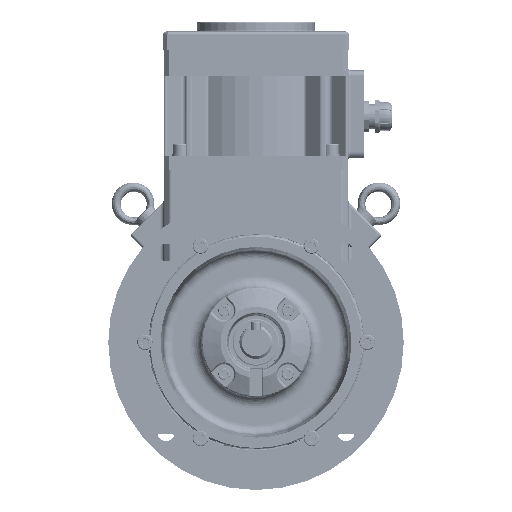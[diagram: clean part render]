
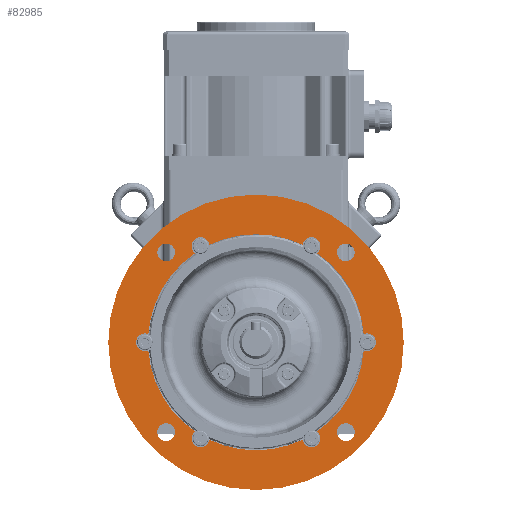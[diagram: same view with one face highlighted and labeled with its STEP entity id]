
A CAD part, front view. The second image highlights one B-rep face of the part: STEP entity #82985.
In plain terms, the highlighted planar face has unit normal (0, -1, 0).
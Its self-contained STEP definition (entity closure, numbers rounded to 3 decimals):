
#1351=PLANE('',#87097);
#2729=CIRCLE('',#87042,7.5);
#2734=CIRCLE('',#87050,7.5);
#2738=CIRCLE('',#87057,7.5);
#2743=CIRCLE('',#87065,7.5);
#2748=CIRCLE('',#87073,7.5);
#2754=CIRCLE('',#87082,7.5);
#2764=CIRCLE('',#87096,91.4);
#2765=CIRCLE('',#87098,91.4);
#2766=CIRCLE('',#87099,91.4);
#2767=CIRCLE('',#87100,91.4);
#2768=CIRCLE('',#87101,91.4);
#2769=CIRCLE('',#87102,91.4);
#2770=CIRCLE('',#87103,7.5);
#2771=CIRCLE('',#87104,7.5);
#2772=CIRCLE('',#87105,7.5);
#2773=CIRCLE('',#87106,7.5);
#2774=CIRCLE('',#87107,125.);
#7872=ORIENTED_EDGE('',*,*,#26857,.F.);
#7873=ORIENTED_EDGE('',*,*,#26843,.T.);
#7874=ORIENTED_EDGE('',*,*,#26856,.F.);
#7875=ORIENTED_EDGE('',*,*,#26789,.F.);
#7876=ORIENTED_EDGE('',*,*,#26858,.F.);
#7877=ORIENTED_EDGE('',*,*,#26799,.T.);
#7878=ORIENTED_EDGE('',*,*,#26859,.F.);
#7879=ORIENTED_EDGE('',*,*,#26808,.T.);
#7880=ORIENTED_EDGE('',*,*,#26860,.F.);
#7881=ORIENTED_EDGE('',*,*,#26820,.F.);
#7882=ORIENTED_EDGE('',*,*,#26861,.F.);
#7883=ORIENTED_EDGE('',*,*,#26831,.F.);
#7884=ORIENTED_EDGE('',*,*,#26862,.F.);
#7885=ORIENTED_EDGE('',*,*,#26863,.F.);
#7886=ORIENTED_EDGE('',*,*,#26864,.F.);
#7887=ORIENTED_EDGE('',*,*,#26865,.F.);
#7888=ORIENTED_EDGE('',*,*,#26866,.F.);
#26789=EDGE_CURVE('',#36306,#36307,#2729,.F.);
#26799=EDGE_CURVE('',#36317,#36316,#2734,.T.);
#26808=EDGE_CURVE('',#36326,#36325,#2738,.T.);
#26820=EDGE_CURVE('',#36337,#36338,#2743,.F.);
#26831=EDGE_CURVE('',#36348,#36349,#2748,.F.);
#26843=EDGE_CURVE('',#36361,#36360,#2754,.T.);
#26856=EDGE_CURVE('',#36307,#36360,#2764,.T.);
#26857=EDGE_CURVE('',#36361,#36348,#2765,.T.);
#26858=EDGE_CURVE('',#36317,#36306,#2766,.T.);
#26859=EDGE_CURVE('',#36326,#36316,#2767,.T.);
#26860=EDGE_CURVE('',#36338,#36325,#2768,.T.);
#26861=EDGE_CURVE('',#36349,#36337,#2769,.T.);
#26862=EDGE_CURVE('',#36365,#36365,#2770,.T.);
#26863=EDGE_CURVE('',#36366,#36366,#2771,.T.);
#26864=EDGE_CURVE('',#36367,#36367,#2772,.T.);
#26865=EDGE_CURVE('',#36368,#36368,#2773,.T.);
#26866=EDGE_CURVE('',#36369,#36369,#2774,.T.);
#36306=VERTEX_POINT('',#115081);
#36307=VERTEX_POINT('',#115083);
#36316=VERTEX_POINT('',#115119);
#36317=VERTEX_POINT('',#115121);
#36325=VERTEX_POINT('',#115155);
#36326=VERTEX_POINT('',#115157);
#36337=VERTEX_POINT('',#115203);
#36338=VERTEX_POINT('',#115205);
#36348=VERTEX_POINT('',#115246);
#36349=VERTEX_POINT('',#115248);
#36360=VERTEX_POINT('',#115291);
#36361=VERTEX_POINT('',#115293);
#36365=VERTEX_POINT('',#115330);
#36366=VERTEX_POINT('',#115332);
#36367=VERTEX_POINT('',#115334);
#36368=VERTEX_POINT('',#115336);
#36369=VERTEX_POINT('',#115338);
#51395=EDGE_LOOP('',(#7872,#7873,#7874,#7875,#7876,#7877,#7878,#7879,#7880,
#7881,#7882,#7883));
#51396=EDGE_LOOP('',(#7884));
#51397=EDGE_LOOP('',(#7885));
#51398=EDGE_LOOP('',(#7886));
#51399=EDGE_LOOP('',(#7887));
#51400=EDGE_LOOP('',(#7888));
#56313=FACE_BOUND('',#51395,.T.);
#56314=FACE_BOUND('',#51396,.T.);
#56315=FACE_BOUND('',#51397,.T.);
#56316=FACE_BOUND('',#51398,.T.);
#56317=FACE_BOUND('',#51399,.T.);
#56318=FACE_BOUND('',#51400,.T.);
#82985=ADVANCED_FACE('',(#56313,#56314,#56315,#56316,#56317,#56318),#1351,
 .F.);
#87042=AXIS2_PLACEMENT_3D('',#115082,#94957,#94958);
#87050=AXIS2_PLACEMENT_3D('',#115120,#94975,#94976);
#87057=AXIS2_PLACEMENT_3D('',#115156,#94991,#94992);
#87065=AXIS2_PLACEMENT_3D('',#115204,#95009,#95010);
#87073=AXIS2_PLACEMENT_3D('',#115247,#95027,#95028);
#87082=AXIS2_PLACEMENT_3D('',#115292,#95047,#95048);
#87096=AXIS2_PLACEMENT_3D('',#115322,#95076,#95077);
#87097=AXIS2_PLACEMENT_3D('',#115323,#95078,#95079);
#87098=AXIS2_PLACEMENT_3D('',#115324,#95080,#95081);
#87099=AXIS2_PLACEMENT_3D('',#115325,#95082,#95083);
#87100=AXIS2_PLACEMENT_3D('',#115326,#95084,#95085);
#87101=AXIS2_PLACEMENT_3D('',#115327,#95086,#95087);
#87102=AXIS2_PLACEMENT_3D('',#115328,#95088,#95089);
#87103=AXIS2_PLACEMENT_3D('',#115329,#95090,#95091);
#87104=AXIS2_PLACEMENT_3D('',#115331,#95092,#95093);
#87105=AXIS2_PLACEMENT_3D('',#115333,#95094,#95095);
#87106=AXIS2_PLACEMENT_3D('',#115335,#95096,#95097);
#87107=AXIS2_PLACEMENT_3D('',#115337,#95098,#95099);
#94957=DIRECTION('',(0.,1.,0.));
#94958=DIRECTION('',(0.,0.,-1.));
#94975=DIRECTION('',(0.,1.,0.));
#94976=DIRECTION('',(0.,0.,-1.));
#94991=DIRECTION('',(0.,1.,0.));
#94992=DIRECTION('',(0.,0.,-1.));
#95009=DIRECTION('',(0.,1.,0.));
#95010=DIRECTION('',(0.,0.,-1.));
#95027=DIRECTION('',(0.,1.,0.));
#95028=DIRECTION('',(0.,0.,-1.));
#95047=DIRECTION('',(0.,1.,0.));
#95048=DIRECTION('',(0.,0.,-1.));
#95076=DIRECTION('',(0.,-1.,0.));
#95077=DIRECTION('',(0.,0.,1.));
#95078=DIRECTION('',(0.,1.,0.));
#95079=DIRECTION('',(0.,0.,-1.));
#95080=DIRECTION('',(0.,-1.,0.));
#95081=DIRECTION('',(0.,0.,1.));
#95082=DIRECTION('',(0.,-1.,0.));
#95083=DIRECTION('',(0.,0.,1.));
#95084=DIRECTION('',(0.,-1.,0.));
#95085=DIRECTION('',(0.,0.,1.));
#95086=DIRECTION('',(0.,-1.,0.));
#95087=DIRECTION('',(0.,0.,1.));
#95088=DIRECTION('',(0.,-1.,0.));
#95089=DIRECTION('',(0.,0.,1.));
#95090=DIRECTION('',(0.,-1.,0.));
#95091=DIRECTION('',(1.,0.,0.));
#95092=DIRECTION('',(0.,-1.,0.));
#95093=DIRECTION('',(1.,0.,0.));
#95094=DIRECTION('',(0.,-1.,0.));
#95095=DIRECTION('',(1.,0.,0.));
#95096=DIRECTION('',(0.,-1.,0.));
#95097=DIRECTION('',(1.,0.,0.));
#95098=DIRECTION('',(0.,1.,0.));
#95099=DIRECTION('',(0.,0.,-1.));
#115081=CARTESIAN_POINT('',(-51.572,-37.497,-75.461));
#115082=CARTESIAN_POINT('',(-47.,-37.497,-81.406));
#115083=CARTESIAN_POINT('',(-39.565,-37.497,-82.393));
#115119=CARTESIAN_POINT('',(-91.137,-37.497,6.932));
#115120=CARTESIAN_POINT('',(-94.,-37.497,0.));
#115121=CARTESIAN_POINT('',(-91.137,-37.497,-6.932));
#115155=CARTESIAN_POINT('',(-39.565,-37.497,82.393));
#115156=CARTESIAN_POINT('',(-47.,-37.497,81.406));
#115157=CARTESIAN_POINT('',(-51.572,-37.497,75.461));
#115203=CARTESIAN_POINT('',(51.572,-37.497,75.461));
#115204=CARTESIAN_POINT('',(47.,-37.497,81.406));
#115205=CARTESIAN_POINT('',(39.565,-37.497,82.393));
#115246=CARTESIAN_POINT('',(91.137,-37.497,-6.932));
#115247=CARTESIAN_POINT('',(94.,-37.497,0.));
#115248=CARTESIAN_POINT('',(91.137,-37.497,6.932));
#115291=CARTESIAN_POINT('',(39.565,-37.497,-82.393));
#115292=CARTESIAN_POINT('',(47.,-37.497,-81.406));
#115293=CARTESIAN_POINT('',(51.572,-37.497,-75.461));
#115322=CARTESIAN_POINT('',(0.,-37.497,0.));
#115323=CARTESIAN_POINT('',(0.,-37.497,91.4));
#115324=CARTESIAN_POINT('',(0.,-37.497,0.));
#115325=CARTESIAN_POINT('',(0.,-37.497,0.));
#115326=CARTESIAN_POINT('',(0.,-37.497,0.));
#115327=CARTESIAN_POINT('',(0.,-37.497,0.));
#115328=CARTESIAN_POINT('',(0.,-37.497,0.));
#115329=CARTESIAN_POINT('',(76.014,-37.497,-76.014));
#115330=CARTESIAN_POINT('',(83.514,-37.497,-76.014));
#115331=CARTESIAN_POINT('',(-76.014,-37.497,-76.014));
#115332=CARTESIAN_POINT('',(-68.514,-37.497,-76.014));
#115333=CARTESIAN_POINT('',(-76.014,-37.497,76.014));
#115334=CARTESIAN_POINT('',(-68.514,-37.497,76.014));
#115335=CARTESIAN_POINT('',(76.014,-37.497,76.014));
#115336=CARTESIAN_POINT('',(83.514,-37.497,76.014));
#115337=CARTESIAN_POINT('',(0.,-37.497,0.));
#115338=CARTESIAN_POINT('',(0.,-37.497,-125.));
